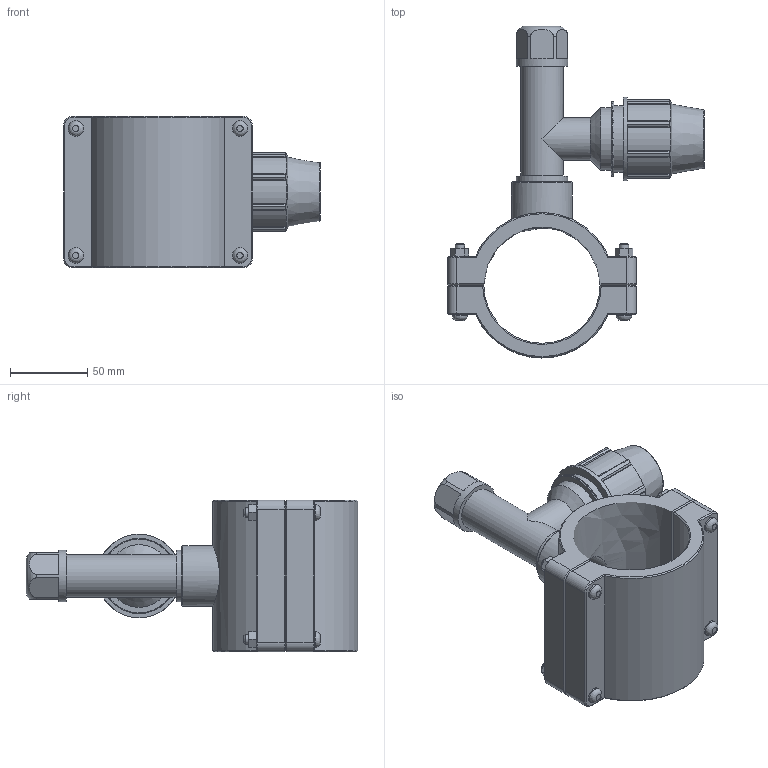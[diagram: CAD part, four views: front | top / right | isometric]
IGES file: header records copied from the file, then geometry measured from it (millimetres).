
Global section: file name: 165400075025_165406075025.ipt; native system: Autodesk Inventor 2015; preprocessor: unknown; author: KIM; date: 20170618.093851; units: millimetre
Bounding box: 166 x 214.38 x 98 mm (x, y, z)
Volume: 479728.6 mm3; surface area: 119898.7 mm2
Topology: 1 solids, 1 shells, 232 faces, 582 edges, 378 vertices
Faces by surface type: plane 145, cylinder 42, cone 28, revolution 17
Full cylindrical faces by diameter (mm): 6 x4, 10 x8, 27.262 x2, 30.291 x1, 33.32 x2, 39.378 x1, 40.5 x1, 43.2 x1, 48.6 x1, 54 x1
